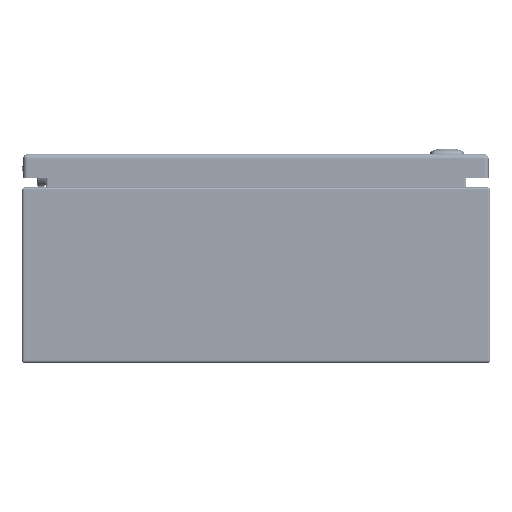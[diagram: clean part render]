
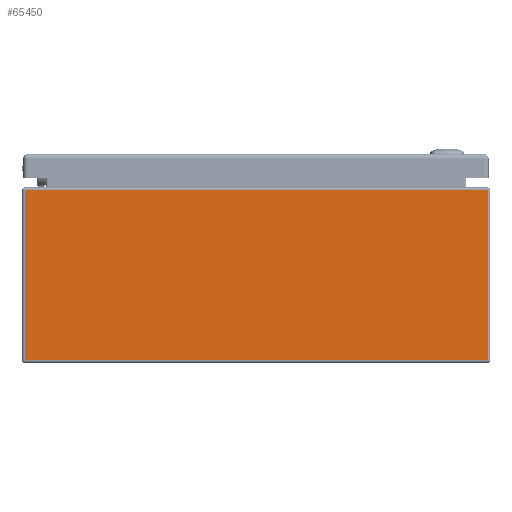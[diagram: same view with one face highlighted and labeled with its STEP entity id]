
A CAD part, front view. The second image highlights one B-rep face of the part: STEP entity #65450.
In plain terms, the highlighted planar face has unit normal (0, -1, 0).
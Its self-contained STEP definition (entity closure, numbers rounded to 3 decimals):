
#6800=LINE('',#91877,#10748);
#6806=LINE('',#91895,#10754);
#6810=LINE('',#91912,#10758);
#6841=LINE('',#92069,#10789);
#10748=VECTOR('',#76225,0.394);
#10754=VECTOR('',#76245,0.394);
#10758=VECTOR('',#76263,0.394);
#10789=VECTOR('',#76446,0.394);
#15769=FACE_OUTER_BOUND('',#19835,.T.);
#19835=EDGE_LOOP('',(#43643,#43644,#43645,#43646));
#26575=VERTEX_POINT('',#91868);
#26578=VERTEX_POINT('',#91875);
#26583=VERTEX_POINT('',#91894);
#26588=VERTEX_POINT('',#91905);
#33080=EDGE_CURVE('',#26578,#26575,#6800,.T.);
#33089=EDGE_CURVE('',#26575,#26583,#6806,.T.);
#33098=EDGE_CURVE('',#26583,#26588,#6810,.T.);
#33177=EDGE_CURVE('',#26588,#26578,#6841,.T.);
#43643=ORIENTED_EDGE('',*,*,#33080,.F.);
#43644=ORIENTED_EDGE('',*,*,#33177,.F.);
#43645=ORIENTED_EDGE('',*,*,#33098,.F.);
#43646=ORIENTED_EDGE('',*,*,#33089,.F.);
#64007=PLANE('',#70442);
#65450=ADVANCED_FACE('',(#15769),#64007,.F.);
#70442=AXIS2_PLACEMENT_3D('',#92068,#76444,#76445);
#76225=DIRECTION('',(0.,0.,1.));
#76245=DIRECTION('',(1.,0.,0.));
#76263=DIRECTION('',(0.,0.,-1.));
#76444=DIRECTION('center_axis',(0.,1.,0.));
#76445=DIRECTION('ref_axis',(0.,0.,1.));
#76446=DIRECTION('',(-1.,0.,0.));
#91868=CARTESIAN_POINT('',(-7.916,-10.,5.916));
#91875=CARTESIAN_POINT('',(-7.916,-10.,0.084));
#91877=CARTESIAN_POINT('',(-7.916,-10.,5.916));
#91894=CARTESIAN_POINT('',(7.916,-10.,5.916));
#91895=CARTESIAN_POINT('',(-7.078,-10.,5.916));
#91905=CARTESIAN_POINT('',(7.916,-10.,0.084));
#91912=CARTESIAN_POINT('',(7.916,-10.,5.916));
#92068=CARTESIAN_POINT('Origin',(7.078,-10.,5.916));
#92069=CARTESIAN_POINT('',(7.518,-10.,0.084));
